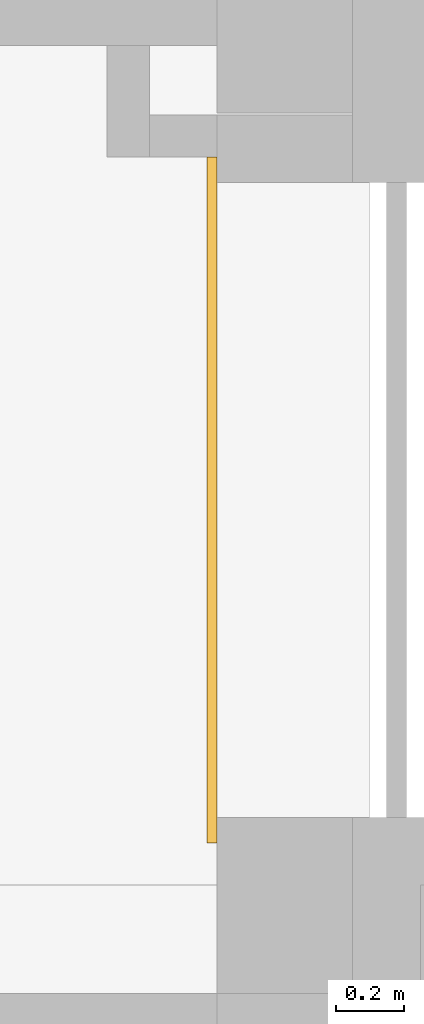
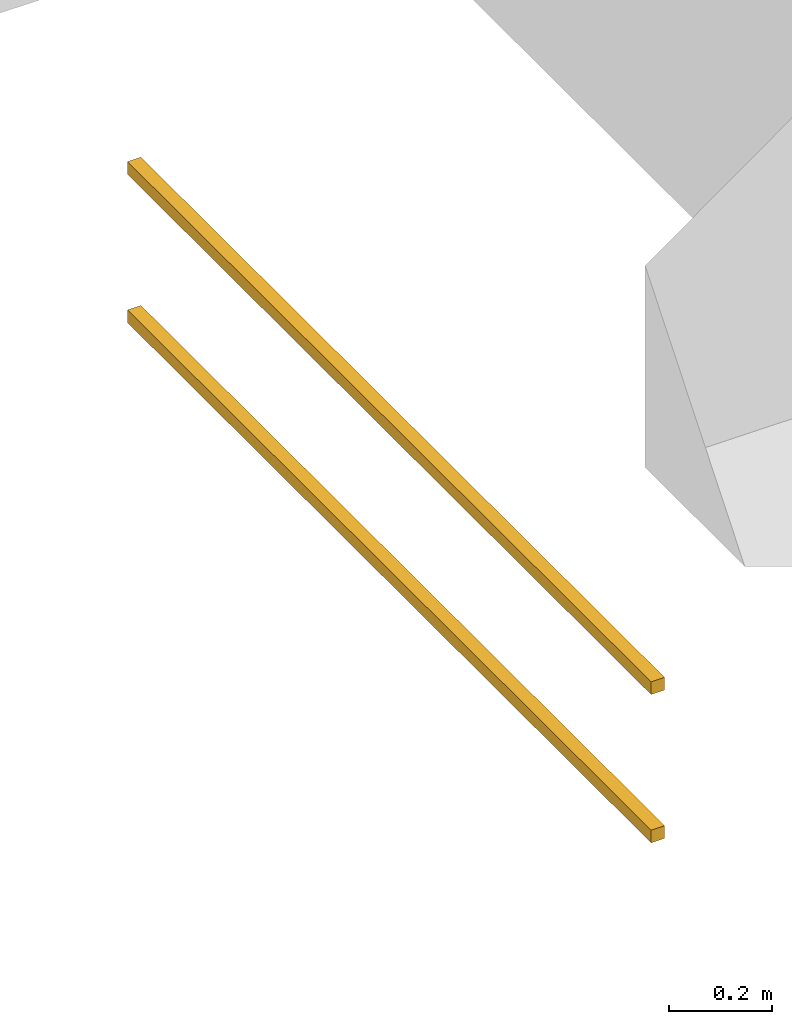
# One storey, part 26 of 27: 1 railing.
"""IFC4 building model written with IfcOpenShell, lengths in metres."""

import ifcopenshell
import ifcopenshell.guid

model = None  # the IFC model being written
_history = None  # IfcOwnerHistory: only IFC2X3 demands one
_inside = {}  # id of a spatial element -> (the spatial element, [elements in it])
_under = {}  # id of a project, library or spatial element -> (it, [spatial elements below it])
_declared = {}  # id of a project -> (the project, [libraries it declares])
_typed = {}  # id of a type object -> (the type object, [elements of that type])
_made_of = {}  # id of a material, layer set ... -> (it, [elements and type objects made of it])


def new_model(schema):
    """Start an empty IFC model of exactly this schema.

    Asked for "IFC4X3", IfcOpenShell would pick the latest addendum, in which some entities
    have other attributes; the version numbers below select the first issue.
    IFC2X3 requires an IfcOwnerHistory on every rooted entity: one is made here for all.
    """
    global model, _history
    if schema == "IFC4X3":
        model = ifcopenshell.file(schema_version=(4, 3, 0, 0))
    else:
        model = ifcopenshell.file(schema=schema)
    _inside.clear()
    _under.clear()
    _declared.clear()
    _typed.clear()
    _made_of.clear()
    _history = None
    if model.schema == "IFC2X3":
        org = make("IfcOrganization", Name="unknown")
        user = make(
            "IfcPersonAndOrganization",
            ThePerson=make("IfcPerson", FamilyName="unknown"),
            TheOrganization=org,
        )
        app = make(
            "IfcApplication",
            ApplicationDeveloper=org,
            Version="unknown",
            ApplicationFullName="unknown",
            ApplicationIdentifier="unknown",
        )
        _history = make(
            "IfcOwnerHistory",
            OwningUser=user,
            OwningApplication=app,
            ChangeAction="ADDED",
            CreationDate=0,
        )
    return model


def make(cls, **values):
    """One entity of the class cls with the attributes given. An attribute that is None is left unset."""
    return model.create_entity(
        cls, **{name: value for name, value in values.items() if value is not None}
    )


def entity(cls, *values):
    """Any entity or typed value of the class cls, its attributes in the order of the schema. None: left unset."""
    e = model.create_entity(cls)
    for i, value in enumerate(values):
        if value is not None:
            e[i] = value
    return e


def rooted(cls, **values):
    """An entity with a GlobalId (a new one), such as an element, a storey or a relation."""
    return make(cls, GlobalId=ifcopenshell.guid.new(), OwnerHistory=_history, **values)


def si_unit(unit_type, name, prefix=None):
    """IfcSIUnit, for example si_unit("LENGTHUNIT", "METRE", prefix="MILLI")."""
    return make("IfcSIUnit", UnitType=unit_type, Prefix=prefix, Name=name)


def converted_unit(unit_type, name, factor, base, dimensions=None, offset=None):
    """IfcConversionBasedUnit, such as the inch: factor (a typed value) times the base unit."""
    return make(
        "IfcConversionBasedUnit"
        if offset is None
        else "IfcConversionBasedUnitWithOffset",
        ConversionOffset=offset,
        Dimensions=None
        if dimensions is None
        else entity("IfcDimensionalExponents", *dimensions),
        UnitType=unit_type,
        Name=name,
        ConversionFactor=make(
            "IfcMeasureWithUnit", ValueComponent=factor, UnitComponent=base
        ),
    )


def derived_unit(unit_type, elements):
    """IfcDerivedUnit: a product of units, each with its exponent."""
    return make(
        "IfcDerivedUnit",
        Elements=[
            make("IfcDerivedUnitElement", Unit=unit, Exponent=power)
            for unit, power in elements
        ],
        UnitType=unit_type,
    )


def assignment(units):
    """IfcUnitAssignment: the units of a project."""
    return None if units is None else make("IfcUnitAssignment", Units=units)


def point(xyz):
    """IfcCartesianPoint."""
    return None if xyz is None else make("IfcCartesianPoint", Coordinates=xyz)


def direction(xyz):
    """IfcDirection."""
    return None if xyz is None else make("IfcDirection", DirectionRatios=xyz)


def frame(location, z_axis=None, x_axis=None):
    """IfcAxis2Placement3D, a coordinate frame: its origin and axes. An axis left out is left unset."""
    return make(
        "IfcAxis2Placement3D",
        Location=point(location),
        Axis=direction(z_axis),
        RefDirection=direction(x_axis),
    )


def origin():
    """The frame at (0, 0, 0) with its axes left unset."""
    return frame((0.0, 0.0, 0.0))


def place(relative_to, where):
    """IfcLocalPlacement: puts the frame where relative to a parent placement (None: the world)."""
    return make(
        "IfcLocalPlacement", PlacementRelTo=relative_to, RelativePlacement=where
    )


def context(
    kind, dimensions, precision=None, world=None, true_north=None, identifier=None
):
    """IfcGeometricRepresentationContext, for example the 3D "Model" context."""
    return make(
        "IfcGeometricRepresentationContext",
        ContextIdentifier=identifier,
        ContextType=kind,
        CoordinateSpaceDimension=dimensions,
        Precision=precision,
        WorldCoordinateSystem=world,
        TrueNorth=true_north,
    )


def subcontext(parent, identifier, kind, view, scale=None):
    """IfcGeometricRepresentationSubContext, for example "Body" below "Model"."""
    return make(
        "IfcGeometricRepresentationSubContext",
        ContextIdentifier=identifier,
        ContextType=kind,
        ParentContext=parent,
        TargetScale=scale,
        TargetView=view,
    )


def project(units=None, contexts=None):
    """IfcProject with its units and contexts."""
    return rooted(
        "IfcProject",
        Name="project",
        RepresentationContexts=contexts,
        UnitsInContext=assignment(units),
    )


def spatial(cls, under=None, at=None, **own):
    """A site, building, storey or space (cls), placed at a placement, below another one or the project."""
    s = rooted(cls, ObjectPlacement=at, **own)
    if under is not None:
        _under.setdefault(under.id(), (under, []))[1].append(s)
    return s


def faces_of(points, faces, orient=None, outer=None):
    """IfcFace entities. A face is a list of loops; a loop is a list of indices into points, from 0.

    orient and outer hold one flag for each loop. By default every Orientation is true, the
    first loop of a face is its IfcFaceOuterBound and the others are IfcFaceBound.
    """
    made = []
    for i, loops in enumerate(faces):
        bounds = []
        for j, loop in enumerate(loops):
            is_outer = j == 0 if outer is None else outer[i][j]
            bounds.append(
                make(
                    "IfcFaceOuterBound" if is_outer else "IfcFaceBound",
                    Bound=make("IfcPolyLoop", Polygon=[points[k] for k in loop]),
                    Orientation=True if orient is None else orient[i][j],
                )
            )
        made.append(make("IfcFace", Bounds=bounds))
    return made


def faceted_brep(points, faces, orient=None, outer=None, voids=None):
    """IfcFacetedBrep: a solid bounded by flat faces; with voids (closed shells), ...WithVoids."""
    shared = [point(p) for p in points]
    hull = make("IfcClosedShell", CfsFaces=faces_of(shared, faces, orient, outer))
    if voids is None:
        return make("IfcFacetedBrep", Outer=hull)
    return make(
        "IfcFacetedBrepWithVoids",
        Outer=hull,
        Voids=[
            make(cls, CfsFaces=faces_of(shared, fs, o, b)) for cls, fs, o, b in voids
        ],
    )


def shape(context_of_items, identifier, shape_type, items):
    """IfcShapeRepresentation: the items that make up one representation, for example the "Body"."""
    return make(
        "IfcShapeRepresentation",
        ContextOfItems=context_of_items,
        RepresentationIdentifier=identifier,
        RepresentationType=shape_type,
        Items=items,
    )


def material(Name=None, Category=None):
    """IfcMaterial."""
    return make("IfcMaterial", Name=Name, Category=Category)


def made_of(thing, what):
    """Note that an element or type object is made of a material, layer set ...; save() writes the relation."""
    if what is not None:
        _made_of.setdefault(what.id(), (what, []))[1].append(thing)
    return thing


def element(
    cls,
    number,
    at=None,
    inside=None,
    cuts=None,
    type_object=None,
    material=None,
    context=None,
    identifier="Body",
    shape_type=None,
    held_by="IfcProductDefinitionShape",
    body=None,
    shapes=None,
    **own,
):
    """One element of the class cls, such as IfcWall. Its Tag is "e" and its number.

    at: its placement. inside: the storey or other place that contains it. cuts: it is an
    opening in that element (IfcRelVoidsElement). A single representation is given by context,
    identifier, shape_type and body (its items); several are given by shapes. held_by: the class
    of the entity that holds the representations. save() writes the other relations.
    """
    e = rooted(cls, Tag="e%d" % number, ObjectPlacement=at, **own)
    if body is not None:
        shapes = [shape(context, identifier, shape_type, body)]
    if shapes is not None:
        e.Representation = make(held_by, Representations=shapes)
    if inside is not None:
        _inside.setdefault(inside.id(), (inside, []))[1].append(e)
    if cuts is not None:
        rooted(
            "IfcRelVoidsElement", RelatingBuildingElement=cuts, RelatedOpeningElement=e
        )
    if type_object is not None:
        _typed.setdefault(type_object.id(), (type_object, []))[1].append(e)
    return made_of(e, material)


def aggregate(whole, parts):
    """IfcRelAggregates: a whole, such as a stair, and the parts it consists of."""
    return rooted("IfcRelAggregates", RelatingObject=whole, RelatedObjects=parts)


def save(model, path):
    """Write the relations noted so far, then the file.

    IfcRelAggregates (storeys below a building ...), IfcRelContainedInSpatialStructure (elements
    in a storey), IfcRelDefinesByType, IfcRelAssociatesMaterial and IfcRelDeclares: one each for
    every whole, place, type object, material and project.
    """
    for whole, parts in _under.values():
        aggregate(whole, parts)
    for where, things in _inside.values():
        rooted(
            "IfcRelContainedInSpatialStructure",
            RelatedElements=things,
            RelatingStructure=where,
        )
    for kind, things in _typed.values():
        rooted("IfcRelDefinesByType", RelatedObjects=things, RelatingType=kind)
    for what, things in _made_of.values():
        rooted("IfcRelAssociatesMaterial", RelatedObjects=things, RelatingMaterial=what)
    for by, libraries in _declared.values():
        rooted("IfcRelDeclares", RelatingContext=by, RelatedDefinitions=libraries)
    model.write(path)


model = new_model("IFC4")

# Units and contexts
model_context = context("Model", 3, precision=1e-05, world=origin())
body_context = subcontext(model_context, "Body", "Model", "MODEL_VIEW")
ifc_project = project(units=[si_unit("LENGTHUNIT", "METRE"), si_unit("AREAUNIT", "SQUARE_METRE"), si_unit("VOLUMEUNIT", "CUBIC_METRE"), si_unit("MASSUNIT", "GRAM", prefix="KILO"), converted_unit("PLANEANGLEUNIT", "DEGREE", entity("IfcPlaneAngleMeasure", 0.0174532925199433), si_unit("PLANEANGLEUNIT", "RADIAN"), dimensions=[0, 0, 0, 0, 0, 0, 0]), derived_unit("THERMALTRANSMITTANCEUNIT", [(si_unit("POWERUNIT", "WATT"), 1), (si_unit("THERMODYNAMICTEMPERATUREUNIT", "KELVIN"), -1), (si_unit("LENGTHUNIT", "METRE"), -2)]), derived_unit("VOLUMETRICFLOWRATEUNIT", [(si_unit("LENGTHUNIT", "METRE"), 3), (converted_unit("TIMEUNIT", "hour", entity("IfcTimeMeasure", 3600.0), si_unit("TIMEUNIT", "SECOND"), dimensions=[0, 0, 1, 0, 0, 0, 0]), -1), (si_unit("LENGTHUNIT", "METRE"), -1)])], contexts=[model_context])

# Site, building, storey
site_placement = place(None, origin())
site = spatial("IfcSite", under=ifc_project, at=site_placement, Name="3. ASŘ", CompositionType="ELEMENT")
building_placement = place(site_placement, origin())
building = spatial("IfcBuilding", under=site, at=building_placement, Name="Pavilon C", CompositionType="ELEMENT")
storey_placement = place(building_placement, frame((0.0, 0.0, 10.5)))
storey = spatial("IfcBuildingStorey", under=building, at=storey_placement, Name="Půdorys 4.NP", CompositionType="ELEMENT", Elevation=10.5)

# Railing
ifc_material = material(Name="TiZn")
railing_placement = place(storey_placement, frame((48.12, 29.945, -0.93)))
element("IfcRailing", 1, at=railing_placement, inside=storey, material=ifc_material, Name="Rail_Path", PredefinedType="USERDEFINED", context=body_context, shape_type="Brep", body=[
    faceted_brep([(0.03, 2.025, 0.38), (0.0, 2.025, 0.38), (0.0, 2.025, 0.35), (0.03, 2.025, 0.35), (0.03, 0.0, 0.38), (0.03, 0.0, 0.35), (0.0, 0.0, 0.35), (0.0, 0.0, 0.38)], [[[0, 1, 2, 3]], [[4, 5, 6, 7]], [[0, 4, 7, 1]], [[1, 7, 6, 2]], [[2, 6, 5, 3]], [[3, 5, 4, 0]]], orient=[[False], [False], [False], [False], [False], [False]]),
    faceted_brep([(0.03, 2.025, 0.03), (0.0, 2.025, 0.03), (0.0, 2.025, 0.0), (0.03, 2.025, 0.0), (0.03, 0.0, 0.03), (0.03, 0.0, 0.0), (0.0, 0.0, 0.0), (0.0, 0.0, 0.03)], [[[0, 1, 2, 3]], [[4, 5, 6, 7]], [[0, 4, 7, 1]], [[1, 7, 6, 2]], [[2, 6, 5, 3]], [[3, 5, 4, 0]]], orient=[[False], [False], [False], [False], [False], [False]]),
])

save(model, "model.ifc")
